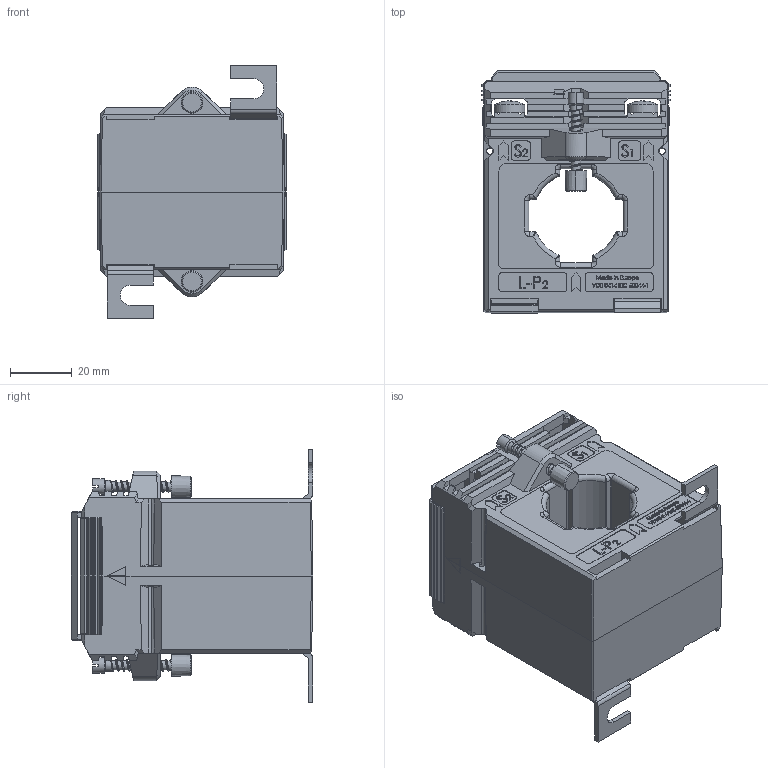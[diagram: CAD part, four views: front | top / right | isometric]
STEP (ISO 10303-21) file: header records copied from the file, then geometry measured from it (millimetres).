
FILE_DESCRIPTION (( 'STEP AP214' ), '1' );
FILE_NAME ('EASK31_5_2U_kpl.STEP', '2011-12-07T08:27:23', ( ' ' ), ( '' ), 'SwSTEP 2.0', 'SolidWorks 2010', '' );
FILE_SCHEMA (( 'AUTOMOTIVE_DESIGN' ));
Length unit declared in the file: millimetre
Products named in the file (10): Isolierschutzkappe; Plastite_Schraube_30_mit-Gewinde; MBS_WN-003_04_Klemme_WN-003_02; Plombierplatte_F; Linsenschraube DIN 7985 4.8 VZ M 5 x 10; EASK31_5_2U_kpl; ASK103.41_Klappe; Fusswinkel_1,5; ASK31_5_11; ASK31_5_11_Gehäuseoberteil
Assembly tree (17 placements, depth 2):
  EASK31_5_2U_kpl
    Linsenschraube DIN 7985 4.8 VZ M 5 x 10  x4
    Plastite_Schraube_30_mit-Gewinde  x2
    MBS_WN-003_04_Klemme_WN-003_02  x2
    Plombierplatte_F
    ASK103.41_Klappe  x2
    Isolierschutzkappe  x2
    ASK31_5_11_Gehäuseoberteil
    Fusswinkel_1,5  x2
    ASK31_5_11
Bounding box: 61 x 78.5 x 82 mm (x, y, z)
Volume: 178763.6 mm3; surface area: 58029.8 mm2
Topology: 17 solids, 19 shells, 2112 faces, 5520 edges, 3550 vertices
Faces by surface type: plane 1406, bspline 344, cylinder 236, cone 78, torus 32, sphere 16
Entity records: 77653 total; most frequent: CARTESIAN_POINT 33911, ORIENTED_EDGE 9758, DIRECTION 7464, EDGE_CURVE 4879, LINE 3652, VECTOR 3652, VERTEX_POINT 3178, EDGE_LOOP 1989
